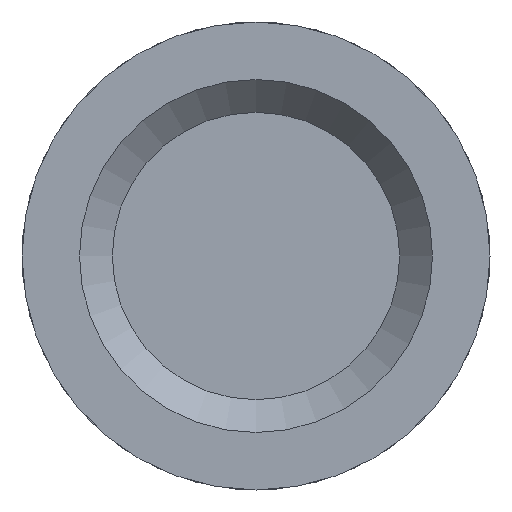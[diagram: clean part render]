
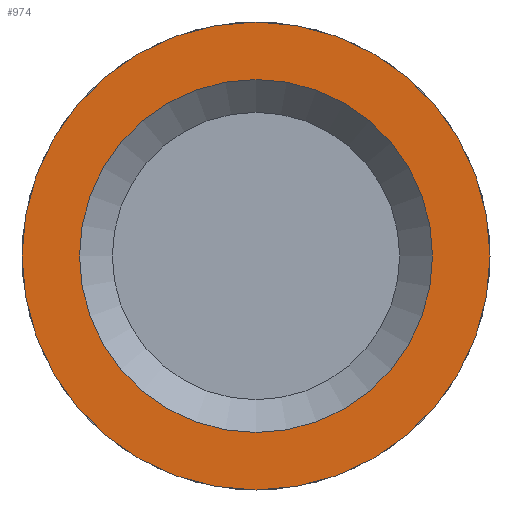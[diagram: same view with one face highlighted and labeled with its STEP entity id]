
A CAD part, front view. The second image highlights one B-rep face of the part: STEP entity #974.
In plain terms, the highlighted planar face has unit normal (0, -1, 0).
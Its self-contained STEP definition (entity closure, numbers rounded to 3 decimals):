
#178=PLANE('',#1476);
#266=ORIENTED_EDGE('',*,*,#410,.T.);
#267=ORIENTED_EDGE('',*,*,#400,.F.);
#400=EDGE_CURVE('',#488,#488,#578,.T.);
#410=EDGE_CURVE('',#498,#498,#588,.T.);
#488=VERTEX_POINT('',#1995);
#498=VERTEX_POINT('',#2017);
#578=CIRCLE('',#1465,142.5);
#588=CIRCLE('',#1477,107.5);
#690=EDGE_LOOP('',(#266));
#691=EDGE_LOOP('',(#267));
#838=FACE_BOUND('',#690,.T.);
#839=FACE_BOUND('',#691,.T.);
#974=ADVANCED_FACE('',(#838,#839),#178,.F.);
#1465=AXIS2_PLACEMENT_3D('',#1994,#1693,#1694);
#1476=AXIS2_PLACEMENT_3D('',#2015,#1715,#1716);
#1477=AXIS2_PLACEMENT_3D('',#2016,#1717,#1718);
#1693=DIRECTION('',(0.,1.,0.));
#1694=DIRECTION('',(0.,0.,1.));
#1715=DIRECTION('',(0.,1.,0.));
#1716=DIRECTION('',(0.,0.,1.));
#1717=DIRECTION('',(0.,1.,0.));
#1718=DIRECTION('',(0.,0.,1.));
#1994=CARTESIAN_POINT('',(0.,0.,0.));
#1995=CARTESIAN_POINT('',(0.,0.,142.5));
#2015=CARTESIAN_POINT('',(0.,0.,0.));
#2016=CARTESIAN_POINT('',(0.,0.,0.));
#2017=CARTESIAN_POINT('',(0.,0.,107.5));
